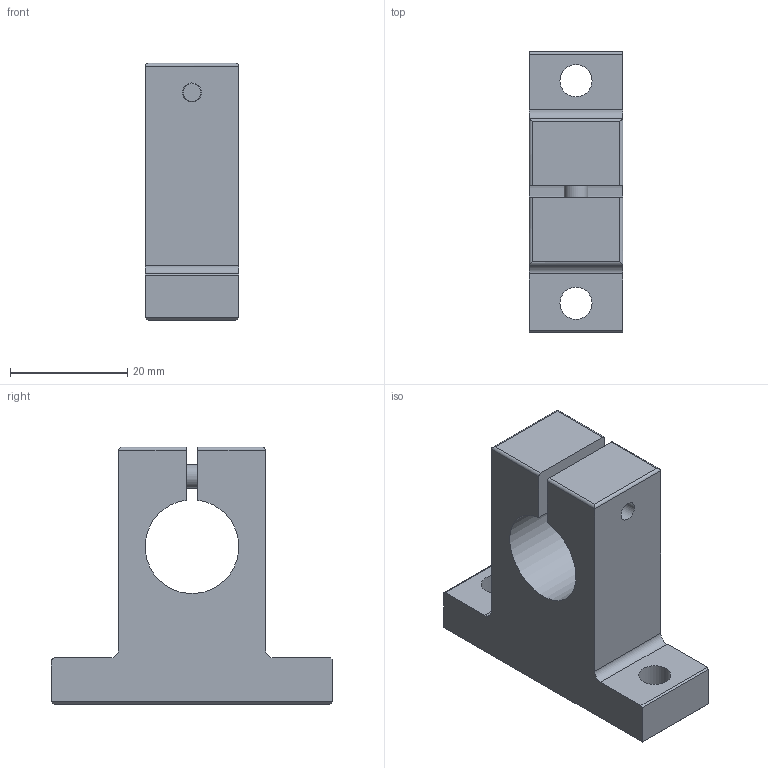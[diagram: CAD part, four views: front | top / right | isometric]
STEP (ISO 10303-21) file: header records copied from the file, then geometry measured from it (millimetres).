
FILE_DESCRIPTION((''),'2;1');
FILE_NAME('D:\製品 (図面)\カタログ用3D\シャフトブロック関連\STEP形式\SBA\SBA16.stp','2010-06-01T16:22:03',('Tsuchiya'),(''),'Autodesk Inventor 10','Autodesk Inventor 10','');
FILE_SCHEMA(('AUTOMOTIVE_DESIGN { 1 0 10303 214 1 1 1 1 }'));
Length unit declared in the file: millimetre
Products named in the file (1): SBA16
Bounding box: 16 x 48 x 44 mm (x, y, z)
Volume: 16525.6 mm3; surface area: 6661.8 mm2
Topology: 1 solids, 1 shells, 48 faces, 119 edges, 77 vertices
Faces by surface type: plane 27, cylinder 14, bspline 4, cone 2, torus 1
Full cylindrical faces by diameter (mm): 4 x1, 5.5 x2, 7 x1
Entity records: 1392 total; most frequent: CARTESIAN_POINT 291, DIRECTION 220, ORIENTED_EDGE 208, EDGE_CURVE 104, AXIS2_PLACEMENT_3D 77, VERTEX_POINT 72, EDGE_LOOP 68, VECTOR 66
